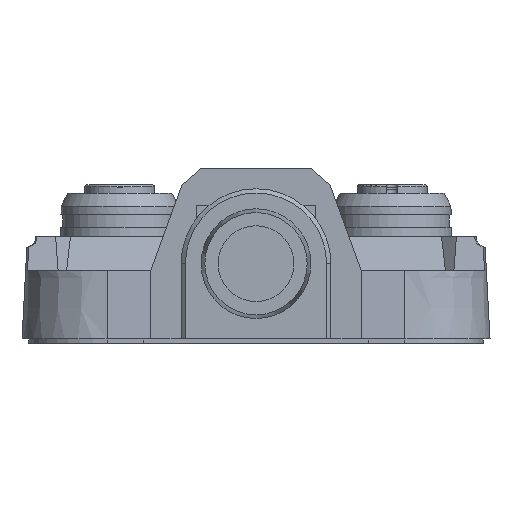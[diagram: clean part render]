
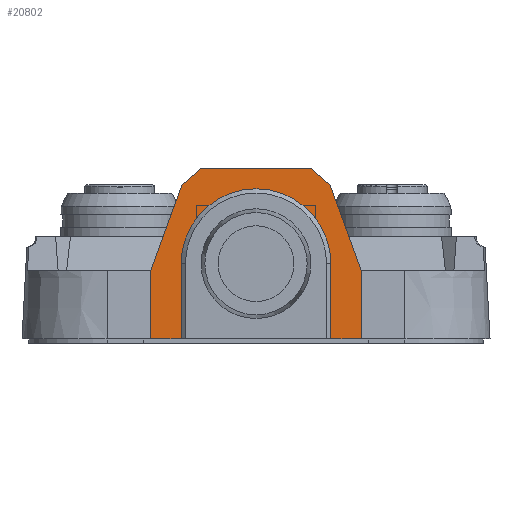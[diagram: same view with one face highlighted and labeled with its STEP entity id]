
A CAD part, left-side view. The second image highlights one B-rep face of the part: STEP entity #20802.
In plain terms, the highlighted planar face has unit normal (-1, 0, 0).
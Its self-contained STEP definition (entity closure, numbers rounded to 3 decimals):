
#1257=FACE_OUTER_BOUND('',#25749,.T.);
#3979=LINE('',#80564,#10777);
#3985=LINE('',#80576,#10783);
#5413=LINE('',#83694,#12211);
#5417=LINE('',#83702,#12215);
#5418=LINE('',#83704,#12216);
#5419=LINE('',#83706,#12217);
#5420=LINE('',#83708,#12218);
#5421=LINE('',#83710,#12219);
#5422=LINE('',#83711,#12220);
#5423=LINE('',#83712,#12221);
#5424=LINE('',#83716,#12222);
#10777=VECTOR('',#65781,1.);
#10783=VECTOR('',#65787,1.);
#12211=VECTOR('',#67601,1.);
#12215=VECTOR('',#67607,1.);
#12216=VECTOR('',#67610,1.);
#12217=VECTOR('',#67611,1.);
#12218=VECTOR('',#67612,1.);
#12219=VECTOR('',#67613,1.);
#12220=VECTOR('',#67614,1.);
#12221=VECTOR('',#67615,1.);
#12222=VECTOR('',#67618,1.);
#18111=PLANE('',#61781);
#20802=ADVANCED_FACE('',(#1257),#18111,.T.);
#25749=EDGE_LOOP('',(#31467,#31468,#31469,#31470,#31471,#31472,#31473,#31474,
#31475,#31476,#31477,#31478));
#31467=ORIENTED_EDGE('',*,*,#53833,.F.);
#31468=ORIENTED_EDGE('',*,*,#53834,.T.);
#31469=ORIENTED_EDGE('',*,*,#53835,.T.);
#31470=ORIENTED_EDGE('',*,*,#53836,.T.);
#31471=ORIENTED_EDGE('',*,*,#53832,.T.);
#31472=ORIENTED_EDGE('',*,*,#53828,.T.);
#31473=ORIENTED_EDGE('',*,*,#53837,.F.);
#31474=ORIENTED_EDGE('',*,*,#52311,.F.);
#31475=ORIENTED_EDGE('',*,*,#53838,.F.);
#31476=ORIENTED_EDGE('',*,*,#53839,.T.);
#31477=ORIENTED_EDGE('',*,*,#53840,.T.);
#31478=ORIENTED_EDGE('',*,*,#52305,.F.);
#46471=VERTEX_POINT('',#80563);
#46472=VERTEX_POINT('',#80565);
#46477=VERTEX_POINT('',#80575);
#46478=VERTEX_POINT('',#80577);
#47888=VERTEX_POINT('',#83677);
#47895=VERTEX_POINT('',#83695);
#47896=VERTEX_POINT('',#83699);
#47898=VERTEX_POINT('',#83705);
#47899=VERTEX_POINT('',#83707);
#47900=VERTEX_POINT('',#83709);
#47901=VERTEX_POINT('',#83713);
#47902=VERTEX_POINT('',#83715);
#52305=EDGE_CURVE('',#46471,#46472,#3979,.T.);
#52311=EDGE_CURVE('',#46477,#46478,#3985,.T.);
#53828=EDGE_CURVE('',#47895,#47888,#5413,.T.);
#53832=EDGE_CURVE('',#47896,#47895,#5417,.T.);
#53833=EDGE_CURVE('',#47898,#46471,#5418,.T.);
#53834=EDGE_CURVE('',#47898,#47899,#5419,.T.);
#53835=EDGE_CURVE('',#47899,#47900,#5420,.T.);
#53836=EDGE_CURVE('',#47900,#47896,#5421,.T.);
#53837=EDGE_CURVE('',#46478,#47888,#5422,.T.);
#53838=EDGE_CURVE('',#47901,#46477,#5423,.T.);
#53839=EDGE_CURVE('',#47901,#47902,#60757,.T.);
#53840=EDGE_CURVE('',#47902,#46472,#5424,.T.);
#60757=CIRCLE('',#61780,8.8);
#61780=AXIS2_PLACEMENT_3D('',#83714,#67616,#67617);
#61781=AXIS2_PLACEMENT_3D('',#83717,#67619,#67620);
#65781=DIRECTION('',(0.,1.,0.));
#65787=DIRECTION('',(0.,1.,0.));
#67601=DIRECTION('',(0.,0.342,-0.94));
#67607=DIRECTION('',(0.,0.758,-0.652));
#67610=DIRECTION('',(0.,0.,-1.));
#67611=DIRECTION('',(0.,0.342,0.94));
#67612=DIRECTION('',(0.,0.758,0.652));
#67613=DIRECTION('',(0.,1.,0.));
#67614=DIRECTION('',(0.,0.,1.));
#67615=DIRECTION('',(0.,0.,-1.));
#67616=DIRECTION('',(1.,0.,0.));
#67617=DIRECTION('',(0.,1.,0.));
#67618=DIRECTION('',(0.,0.,-1.));
#67619=DIRECTION('',(-1.,0.,0.));
#67620=DIRECTION('',(0.,-1.,0.));
#80563=CARTESIAN_POINT('',(-21.129,-12.368,-12.));
#80564=CARTESIAN_POINT('',(-21.129,-12.368,-12.));
#80565=CARTESIAN_POINT('',(-21.129,-8.8,-12.));
#80575=CARTESIAN_POINT('',(-21.129,8.8,-12.));
#80576=CARTESIAN_POINT('',(-21.129,8.8,-12.));
#80577=CARTESIAN_POINT('',(-21.129,12.368,-12.));
#83677=CARTESIAN_POINT('',(-21.129,12.368,-4.));
#83694=CARTESIAN_POINT('',(-21.129,8.684,6.121));
#83695=CARTESIAN_POINT('',(-21.129,8.684,6.121));
#83699=CARTESIAN_POINT('',(-21.129,6.5,8.));
#83702=CARTESIAN_POINT('',(-21.129,6.5,8.));
#83704=CARTESIAN_POINT('',(-21.129,-12.368,-4.));
#83705=CARTESIAN_POINT('',(-21.129,-12.368,-4.));
#83706=CARTESIAN_POINT('',(-21.129,-12.368,-4.));
#83707=CARTESIAN_POINT('',(-21.129,-8.684,6.121));
#83708=CARTESIAN_POINT('',(-21.129,-8.684,6.121));
#83709=CARTESIAN_POINT('',(-21.129,-6.5,8.));
#83710=CARTESIAN_POINT('',(-21.129,-6.5,8.));
#83711=CARTESIAN_POINT('',(-21.129,12.368,-12.));
#83712=CARTESIAN_POINT('',(-21.129,8.8,-3.15));
#83713=CARTESIAN_POINT('',(-21.129,8.8,-3.15));
#83714=CARTESIAN_POINT('',(-21.129,0.,-3.15));
#83715=CARTESIAN_POINT('',(-21.129,-8.8,-3.15));
#83716=CARTESIAN_POINT('',(-21.129,-8.8,-3.15));
#83717=CARTESIAN_POINT('',(-21.129,0.,-12.));
